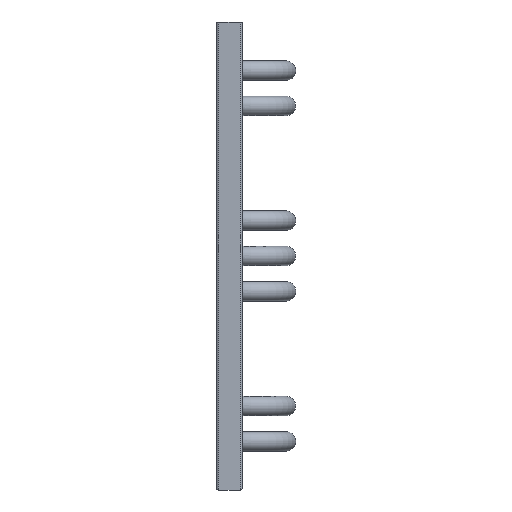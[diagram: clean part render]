
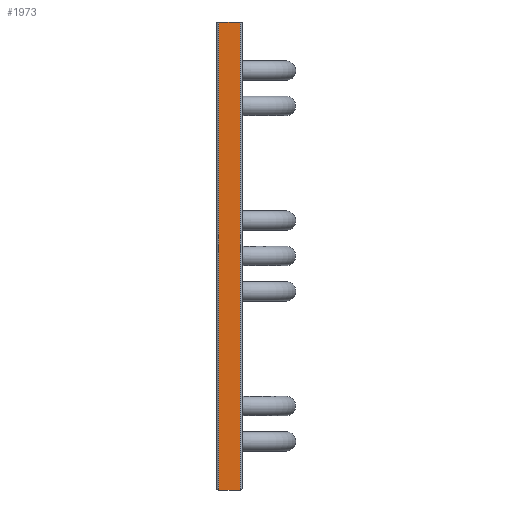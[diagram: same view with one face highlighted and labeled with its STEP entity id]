
A CAD part, left-side view. The second image highlights one B-rep face of the part: STEP entity #1973.
In plain terms, the highlighted planar face has unit normal (-1, 0, 0).
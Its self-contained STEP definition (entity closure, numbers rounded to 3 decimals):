
#215=CARTESIAN_POINT('',(-350.0,12.,0.0));
#216=VERTEX_POINT('',#215);
#231=CARTESIAN_POINT('',(-350.0,-12.,0.0));
#232=VERTEX_POINT('',#231);
#239=CARTESIAN_POINT('',(-350.0,-12.,0.0));
#240=DIRECTION('',(0.0,1.0,0.0));
#241=VECTOR('',#240,24.);
#242=LINE('',#239,#241);
#243=EDGE_CURVE('',#232,#216,#242,.T.);
#1913=CARTESIAN_POINT('',(-350.0,12.,530.0));
#1914=VERTEX_POINT('',#1913);
#1938=CARTESIAN_POINT('',(-350.0,12.,0.0));
#1939=DIRECTION('',(0.0,0.0,1.0));
#1940=VECTOR('',#1939,530.0);
#1941=LINE('',#1938,#1940);
#1942=EDGE_CURVE('',#216,#1914,#1941,.T.);
#1950=CARTESIAN_POINT('',(-350.0,-15.,0.0));
#1951=DIRECTION('',(-1.0,0.0,0.0));
#1952=DIRECTION('',(0.0,0.0,1.0));
#1953=AXIS2_PLACEMENT_3D('',#1950,#1951,#1952);
#1954=PLANE('',#1953);
#1955=ORIENTED_EDGE('',*,*,#1942,.F.);
#1956=ORIENTED_EDGE('',*,*,#243,.F.);
#1957=CARTESIAN_POINT('',(-350.0,-12.,530.0));
#1958=VERTEX_POINT('',#1957);
#1959=CARTESIAN_POINT('',(-350.0,-12.,530.0));
#1960=DIRECTION('',(0.0,0.0,-1.0));
#1961=VECTOR('',#1960,530.0);
#1962=LINE('',#1959,#1961);
#1963=EDGE_CURVE('',#1958,#232,#1962,.T.);
#1964=ORIENTED_EDGE('',*,*,#1963,.F.);
#1965=CARTESIAN_POINT('',(-350.0,-12.,530.0));
#1966=DIRECTION('',(0.0,1.0,0.0));
#1967=VECTOR('',#1966,24.);
#1968=LINE('',#1965,#1967);
#1969=EDGE_CURVE('',#1958,#1914,#1968,.T.);
#1970=ORIENTED_EDGE('',*,*,#1969,.T.);
#1971=EDGE_LOOP('',(#1955,#1956,#1964,#1970));
#1972=FACE_OUTER_BOUND('',#1971,.T.);
#1973=ADVANCED_FACE('',(#1972),#1954,.T.);
